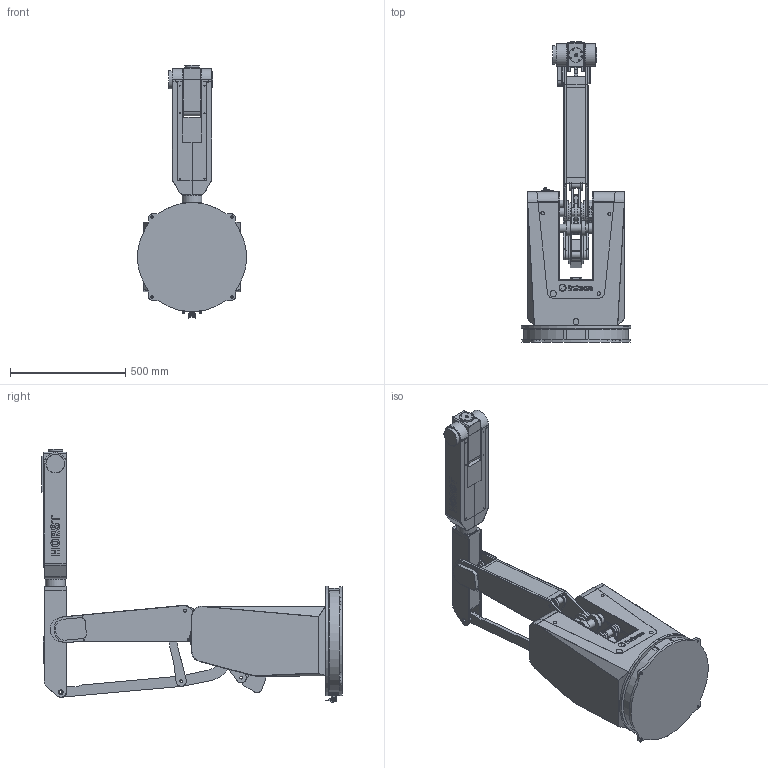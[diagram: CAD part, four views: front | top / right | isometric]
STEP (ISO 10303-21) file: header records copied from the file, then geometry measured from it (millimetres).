
FILE_DESCRIPTION (( 'STEP AP214' ), '1' );
FILE_NAME ('H1400.STEP', '2021-05-11T10:25:18', ( '' ), ( '' ), 'SwSTEP 2.0', 'SolidWorks 2017', '' );
FILE_SCHEMA (( 'AUTOMOTIVE_DESIGN' ));
Length unit declared in the file: millimetre
Products named in the file (2): H1400
Bounding box: 474 x 1301.9 x 1098.15 mm (x, y, z)
Surface area: 6797851.9 mm2 (no closed solid volume)
Topology: 0 solids, 124 shells, 3908 faces, 10523 edges, 6887 vertices
Faces by surface type: plane 2247, cylinder 1104, bspline 431, cone 119, torus 7
Full cylindrical faces by diameter (mm): 0.8 x1, 1 x9, 1.1 x4, 1.2 x4, 1.6 x3, 2.4 x2, 2.5 x6, 3 x4, 3.1 x1, 3.2 x4, 3.4 x6, 3.7 x3, 4.5 x12, 5 x47, 5.7 x1, 6 x2, 6.6 x1, 7.06 x1, 8 x2, 8.2 x1, 8.9 x2, 9 x1, 9.185 x1, 10.2 x4, 10.4 x1, 10.761 x1, 10.917 x1, 11 x1, 11.507 x1, 11.599 x1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
Entity records: 176949 total; most frequent: CARTESIAN_POINT 39047, ORIENTED_EDGE 19363, DIRECTION 18062, EDGE_CURVE 10062, VERTEX_POINT 6777, LINE 6494, VECTOR 6494, AXIS2_PLACEMENT_3D 5784
